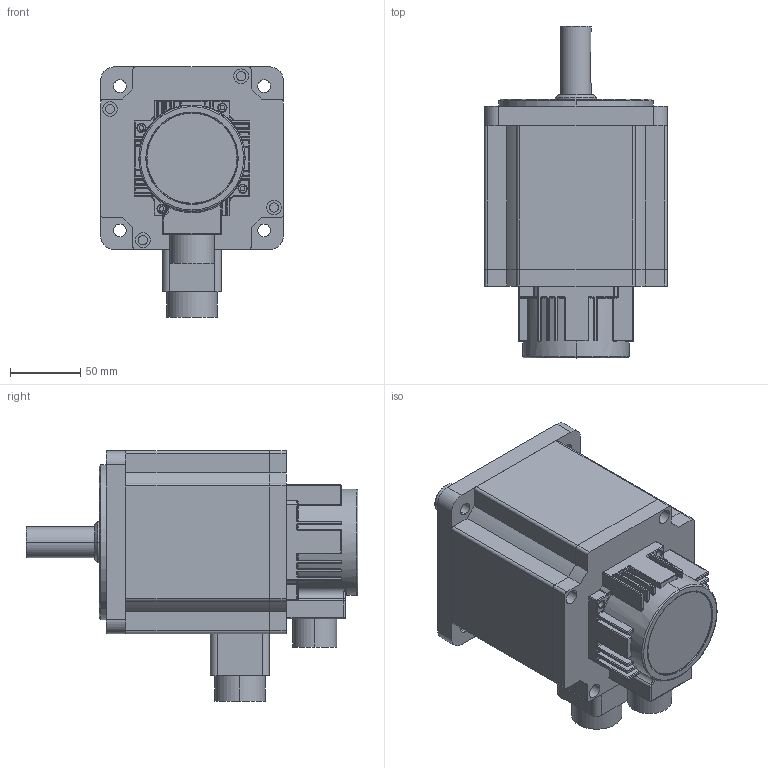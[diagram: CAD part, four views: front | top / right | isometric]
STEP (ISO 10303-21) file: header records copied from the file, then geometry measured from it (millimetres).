
FILE_DESCRIPTION (( 'STEP AP214' ), '1' );
FILE_NAME ('RSN-M13J6025A.STEP', '2022-01-14T08:18:06', ( '' ), ( '' ), 'SwSTEP 2.0', 'SolidWorks 2020', '' );
FILE_SCHEMA (( 'AUTOMOTIVE_DESIGN' ));
Length unit declared in the file: millimetre
Products named in the file (5): S130DG-A-001DY; 130SF1500-K2282.5-001; S130DG-B-001DY; RSN-M13J6025A; S130DG-C-001DY
Assembly tree (4 placements, depth 2):
  RSN-M13J6025A
    S130DG-A-001DY
    S130DG-B-001DY
    S130DG-C-001DY
    130SF1500-K2282.5-001
Bounding box: 130 x 236 x 178 mm (x, y, z)
Volume: 2105132.4 mm3; surface area: 294613.9 mm2
Topology: 9 solids, 9 shells, 835 faces, 2005 edges, 1156 vertices
Faces by surface type: cylinder 405, plane 188, torus 126, sphere 58, bspline 32, cone 26
Entity records: 27352 total; most frequent: CARTESIAN_POINT 6326, DIRECTION 4434, ORIENTED_EDGE 3872, EDGE_CURVE 1936, AXIS2_PLACEMENT_3D 1827, VERTEX_POINT 1156, CIRCLE 1017, EDGE_LOOP 926
